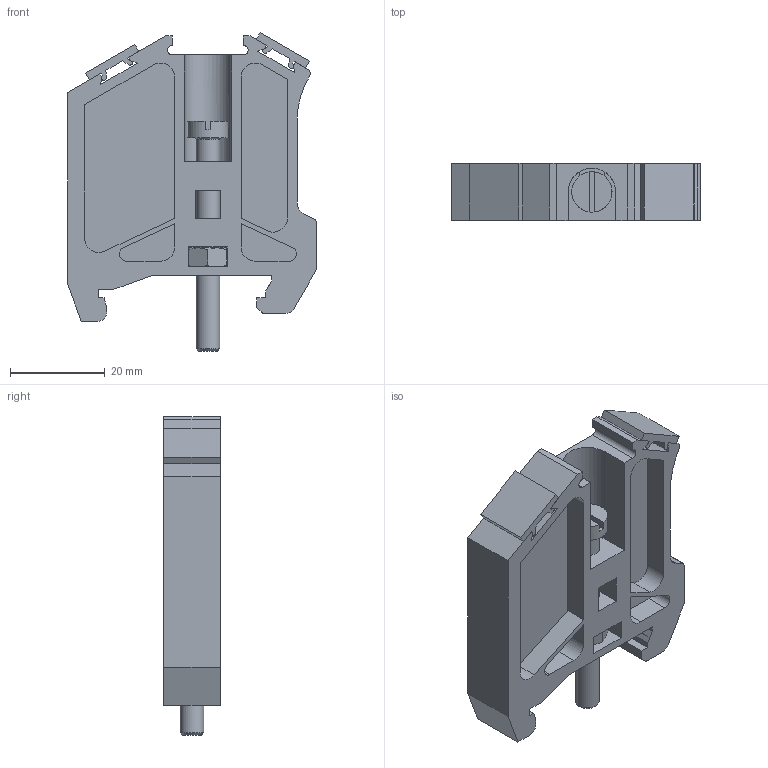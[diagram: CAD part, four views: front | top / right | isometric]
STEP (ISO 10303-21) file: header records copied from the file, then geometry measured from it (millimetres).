
FILE_DESCRIPTION( ( 'Unknown' ), '1' );
FILE_NAME( 'E:/A_work/NÁSTROJE/RS 4_Řez propojky 10x/Řez propojky 10x RSA 4A_nedoděláno_Robert Biel/Konc_svěrka L35_2.stp', 'Unknown', ( 'Unknown' ), ( 'Unknown' ), 'PSStep 17.0.49', 'Unknown', ' ' );
FILE_SCHEMA( ( 'AUTOMOTIVE_DESIGN { 1 0 10303 214 1 1 1 1 }' ) );
Length unit declared in the file: millimetre
Products named in the file (6): Assem1; Pouzdro var 2; ŠR M5 x 40; Označovací pásek; Označovací pásek-oa0; M5
Assembly tree (5 placements, depth 2):
  Assem1
    Pouzdro var 2
    ŠR M5 x 40
    Označovací pásek
    Označovací pásek-oa0
    M5
Bounding box: 52.5 x 12 x 67.18 mm (x, y, z)
Volume: 17077 mm3; surface area: 13184.1 mm2
Topology: 5 solids, 5 shells, 203 faces, 539 edges, 349 vertices
Faces by surface type: plane 149, cylinder 40, cone 13, torus 1
Full cylindrical faces by diameter (mm): 4 x1, 5 x1, 8.5 x1
Entity records: 7987 total; most frequent: CARTESIAN_POINT 1192, ORIENTED_EDGE 1064, DIRECTION 1025, EDGE_CURVE 532, LINE 409, VECTOR 409, VERTEX_POINT 347, AXIS2_PLACEMENT_3D 308
